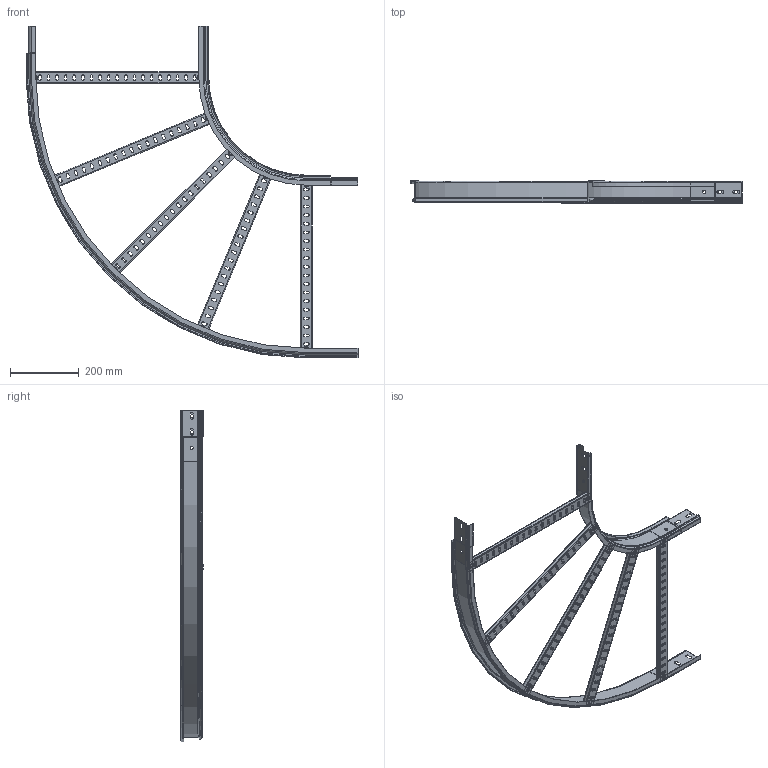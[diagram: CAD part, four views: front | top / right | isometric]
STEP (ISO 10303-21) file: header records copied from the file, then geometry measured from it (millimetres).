
FILE_DESCRIPTION (( 'STEP AP203' ), '1' );
FILE_NAME ('500x63.step', '2023-08-01T07:34:39', ( '' ), ( '' ), 'SwSTEP 2.0', 'SolidWorks 2022', '' );
FILE_SCHEMA (( 'CONFIG_CONTROL_DESIGN' ));
Length unit declared in the file: millimetre
Products named in the file (4): Travesaño RAT35 FER GS_500; FER_INTERIOR CP_Circular_Enchufable_60; FER_EXTERIOR CP_Circular_Enchufable_500x63; 500x63
Assembly tree (7 placements, depth 2):
  500x63
    FER_INTERIOR CP_Circular_Enchufable_60
    Travesaño RAT35 FER GS_500  x5
    FER_EXTERIOR CP_Circular_Enchufable_500x63
Bounding box: 965.4 x 64.2 x 965.4 mm (x, y, z)
Volume: 248652.9 mm3; surface area: 815509.8 mm2
Topology: 5 solids, 11 shells, 986 faces, 2534 edges, 1586 vertices
Faces by surface type: plane 516, cylinder 348, torus 102, cone 18, bspline 2
Entity records: 13186 total; most frequent: CARTESIAN_POINT 2295, DIRECTION 2264, ORIENTED_EDGE 2060, EDGE_CURVE 1062, AXIS2_PLACEMENT_3D 805, VERTEX_POINT 658, VECTOR 654, LINE 654
